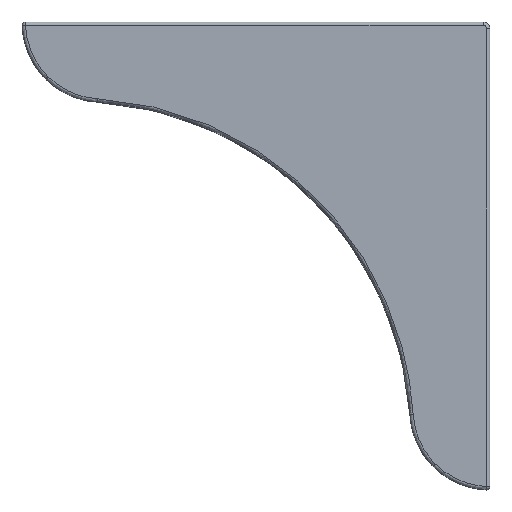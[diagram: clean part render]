
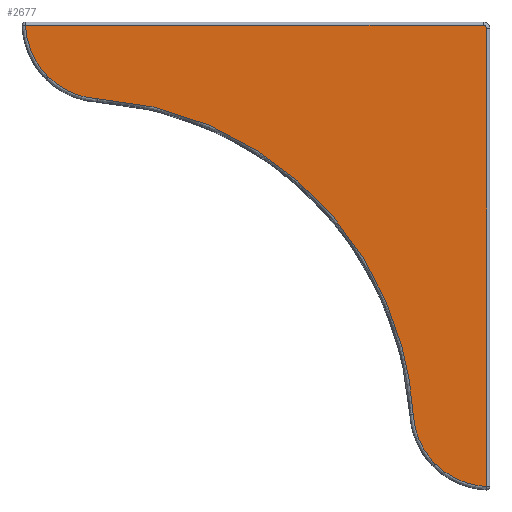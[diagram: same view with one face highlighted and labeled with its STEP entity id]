
A CAD part, top view. The second image highlights one B-rep face of the part: STEP entity #2677.
In plain terms, the highlighted planar face has unit normal (-0.006, -0.006, 1).
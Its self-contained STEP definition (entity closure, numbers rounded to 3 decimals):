
#38 = CARTESIAN_POINT ( 'NONE',  ( -1.003, 65.497, 9.991 ) ) ;
#121 = CARTESIAN_POINT ( 'NONE',  ( -0.503, 33.001, 9.793 ) ) ;
#184 = CARTESIAN_POINT ( 'NONE',  ( -69.492, 65.497, 9.568 ) ) ;
#255 = ORIENTED_EDGE ( 'NONE', *, *, #1873, .T. ) ;
#279 = EDGE_CURVE ( 'NONE', #4250, #1240, #4209, .T. ) ;
#284 = ORIENTED_EDGE ( 'NONE', *, *, #3018, .T. ) ;
#421 = CARTESIAN_POINT ( 'NONE',  ( -3.412, -3.366, 9.551 ) ) ;
#424 = PLANE ( 'NONE',  #2514 ) ;
#531 = CARTESIAN_POINT ( 'NONE',  ( -8.135, -0.135, 9.542 ) ) ;
#610 = CARTESIAN_POINT ( 'NONE',  ( -61.55, 54.697, 9.55 ) ) ;
#695 = CARTESIAN_POINT ( 'NONE',  ( -11.481, 7.278, 9.567 ) ) ;
#785 = CARTESIAN_POINT ( 'NONE',  ( -0.503, -3.492, 9.568 ) ) ;
#813 = CARTESIAN_POINT ( 'NONE',  ( -0.503, 65.29, 9.993 ) ) ;
#855 = FACE_OUTER_BOUND ( 'NONE', #2561, .T. ) ;
#878 = ORIENTED_EDGE ( 'NONE', *, *, #1538, .T. ) ;
#890 = ORIENTED_EDGE ( 'NONE', *, *, #2789, .T. ) ;
#1092 = CARTESIAN_POINT ( 'NONE',  ( -13.152, 33.95, 9.721 ) ) ;
#1118 = ORIENTED_EDGE ( 'NONE', *, *, #1634, .T. ) ;
#1207 =( BOUNDED_CURVE ( )  B_SPLINE_CURVE ( 3, ( #1323, #3259, #3992, #2430 ),
 .UNSPECIFIED., .F., .T. ) 
 B_SPLINE_CURVE_WITH_KNOTS ( ( 4, 4 ),
 ( 5.541, 6.283 ),
 .UNSPECIFIED. ) 
 CURVE ( )  GEOMETRIC_REPRESENTATION_ITEM ( )  RATIONAL_B_SPLINE_CURVE ( ( 1., 0.955, 0.955, 1. ) ) 
 REPRESENTATION_ITEM ( '' )  );
#1208 = CARTESIAN_POINT ( 'NONE',  ( -1.003, 65.497, 9.991 ) ) ;
#1240 = VERTEX_POINT ( 'NONE', #785 ) ;
#1323 = CARTESIAN_POINT ( 'NONE',  ( -69.492, 65.497, 9.568 ) ) ;
#1374 = VERTEX_POINT ( 'NONE', #5027 ) ;
#1538 = EDGE_CURVE ( 'NONE', #3244, #4877, #2934, .T. ) ;
#1554 = CARTESIAN_POINT ( 'NONE',  ( -0.503, -3.492, 9.568 ) ) ;
#1572 = CARTESIAN_POINT ( 'NONE',  ( -66.135, 57.865, 9.542 ) ) ;
#1599 = ORIENTED_EDGE ( 'NONE', *, *, #4647, .T. ) ;
#1620 = CARTESIAN_POINT ( 'NONE',  ( -0.71, 65.497, 9.993 ) ) ;
#1634 = EDGE_CURVE ( 'NONE', #1240, #3244, #2306, .T. ) ;
#1707 = DIRECTION ( 'NONE',  ( 0., 1., 0.006 ) ) ;
#1730 =( BOUNDED_CURVE ( )  B_SPLINE_CURVE ( 3, ( #1847, #4602, #1092, #3453 ),
 .UNSPECIFIED., .F., .F. ) 
 B_SPLINE_CURVE_WITH_KNOTS ( ( 4, 4 ),
 ( 2.419, 3.864 ),
 .UNSPECIFIED. ) 
 CURVE ( )  GEOMETRIC_REPRESENTATION_ITEM ( )  RATIONAL_B_SPLINE_CURVE ( ( 1., 0.833, 0.833, 1. ) ) 
 REPRESENTATION_ITEM ( '' )  );
#1741 = CARTESIAN_POINT ( 'NONE',  ( 32.999, 65.497, 10.201 ) ) ;
#1847 = CARTESIAN_POINT ( 'NONE',  ( -58.722, 54.519, 9.567 ) ) ;
#1873 = EDGE_CURVE ( 'NONE', #3437, #4250, #4381, .T. ) ;
#1934 = CARTESIAN_POINT ( 'NONE',  ( -10.138, 1.868, 9.542 ) ) ;
#2075 = CARTESIAN_POINT ( 'NONE',  ( -0.503, 64.997, 9.991 ) ) ;
#2200 = CARTESIAN_POINT ( 'NONE',  ( -58.722, 54.519, 9.567 ) ) ;
#2306 = LINE ( 'NONE', #121, #3014 ) ;
#2350 = CARTESIAN_POINT ( 'NONE',  ( -0.503, 64.997, 9.991 ) ) ;
#2430 = CARTESIAN_POINT ( 'NONE',  ( -66.135, 57.865, 9.542 ) ) ;
#2500 = VERTEX_POINT ( 'NONE', #1572 ) ;
#2514 = AXIS2_PLACEMENT_3D ( 'NONE', #4341, #3220, #4004 ) ;
#2561 = EDGE_LOOP ( 'NONE', ( #284, #255, #2825, #1118, #878, #890, #3289, #1599 ) ) ;
#2677 = ADVANCED_FACE ( 'NONE', ( #855 ), #424, .T. ) ;
#2749 = LINE ( 'NONE', #1741, #4777 ) ;
#2761 = CARTESIAN_POINT ( 'NONE',  ( -8.135, -0.135, 9.542 ) ) ;
#2789 = EDGE_CURVE ( 'NONE', #4877, #4560, #2749, .T. ) ;
#2825 = ORIENTED_EDGE ( 'NONE', *, *, #279, .T. ) ;
#2934 =( BOUNDED_CURVE ( )  B_SPLINE_CURVE ( 3, ( #2350, #813, #1620, #1208 ),
 .UNSPECIFIED., .F., .F. ) 
 B_SPLINE_CURVE_WITH_KNOTS ( ( 4, 4 ),
 ( 2.356, 3.927 ),
 .UNSPECIFIED. ) 
 CURVE ( )  GEOMETRIC_REPRESENTATION_ITEM ( )  RATIONAL_B_SPLINE_CURVE ( ( 1., 0.805, 0.805, 1. ) ) 
 REPRESENTATION_ITEM ( '' )  );
#3014 = VECTOR ( 'NONE', #1707, 1000. ) ;
#3018 = EDGE_CURVE ( 'NONE', #1374, #3437, #1730, .T. ) ;
#3220 = DIRECTION ( 'NONE',  ( -0.006, -0.006, 1. ) ) ;
#3244 = VERTEX_POINT ( 'NONE', #2075 ) ;
#3259 = CARTESIAN_POINT ( 'NONE',  ( -69.366, 62.588, 9.551 ) ) ;
#3287 = CARTESIAN_POINT ( 'NONE',  ( -6.076, -2.193, 9.542 ) ) ;
#3289 = ORIENTED_EDGE ( 'NONE', *, *, #3597, .T. ) ;
#3384 = CARTESIAN_POINT ( 'NONE',  ( -66.135, 57.865, 9.542 ) ) ;
#3437 = VERTEX_POINT ( 'NONE', #695 ) ;
#3453 = CARTESIAN_POINT ( 'NONE',  ( -11.481, 7.278, 9.567 ) ) ;
#3597 = EDGE_CURVE ( 'NONE', #4560, #2500, #1207, .T. ) ;
#3776 = CARTESIAN_POINT ( 'NONE',  ( -64.132, 55.862, 9.542 ) ) ;
#3826 = CARTESIAN_POINT ( 'NONE',  ( -11.481, 7.278, 9.567 ) ) ;
#3992 = CARTESIAN_POINT ( 'NONE',  ( -68.193, 59.924, 9.542 ) ) ;
#4004 = DIRECTION ( 'NONE',  ( 1., 0., 0.006 ) ) ;
#4191 = CARTESIAN_POINT ( 'NONE',  ( -8.135, -0.135, 9.542 ) ) ;
#4209 =( BOUNDED_CURVE ( )  B_SPLINE_CURVE ( 3, ( #531, #3287, #421, #1554 ),
 .UNSPECIFIED., .F., .F. ) 
 B_SPLINE_CURVE_WITH_KNOTS ( ( 4, 4 ),
 ( 0., 0.742 ),
 .UNSPECIFIED. ) 
 CURVE ( )  GEOMETRIC_REPRESENTATION_ITEM ( )  RATIONAL_B_SPLINE_CURVE ( ( 1., 0.955, 0.955, 1. ) ) 
 REPRESENTATION_ITEM ( '' )  );
#4250 = VERTEX_POINT ( 'NONE', #4191 ) ;
#4341 = CARTESIAN_POINT ( 'NONE',  ( 33., 33., 10. ) ) ;
#4381 =( BOUNDED_CURVE ( )  B_SPLINE_CURVE ( 3, ( #3826, #5016, #1934, #2761 ),
 .UNSPECIFIED., .F., .F. ) 
 B_SPLINE_CURVE_WITH_KNOTS ( ( 4, 4 ),
 ( 5.56, 6.283 ),
 .UNSPECIFIED. ) 
 CURVE ( )  GEOMETRIC_REPRESENTATION_ITEM ( )  RATIONAL_B_SPLINE_CURVE ( ( 1., 0.957, 0.957, 1. ) ) 
 REPRESENTATION_ITEM ( '' )  );
#4560 = VERTEX_POINT ( 'NONE', #184 ) ;
#4602 = CARTESIAN_POINT ( 'NONE',  ( -32.05, 52.848, 9.721 ) ) ;
#4647 = EDGE_CURVE ( 'NONE', #2500, #1374, #5009, .T. ) ;
#4777 = VECTOR ( 'NONE', #4847, 1000. ) ;
#4847 = DIRECTION ( 'NONE',  ( -1., 0., -0.006 ) ) ;
#4877 = VERTEX_POINT ( 'NONE', #38 ) ;
#5009 =( BOUNDED_CURVE ( )  B_SPLINE_CURVE ( 3, ( #3384, #3776, #610, #2200 ),
 .UNSPECIFIED., .F., .T. ) 
 B_SPLINE_CURVE_WITH_KNOTS ( ( 4, 4 ),
 ( 0., 0.723 ),
 .UNSPECIFIED. ) 
 CURVE ( )  GEOMETRIC_REPRESENTATION_ITEM ( )  RATIONAL_B_SPLINE_CURVE ( ( 1., 0.957, 0.957, 1. ) ) 
 REPRESENTATION_ITEM ( '' )  );
#5016 = CARTESIAN_POINT ( 'NONE',  ( -11.303, 4.45, 9.55 ) ) ;
#5027 = CARTESIAN_POINT ( 'NONE',  ( -58.722, 54.519, 9.567 ) ) ;
